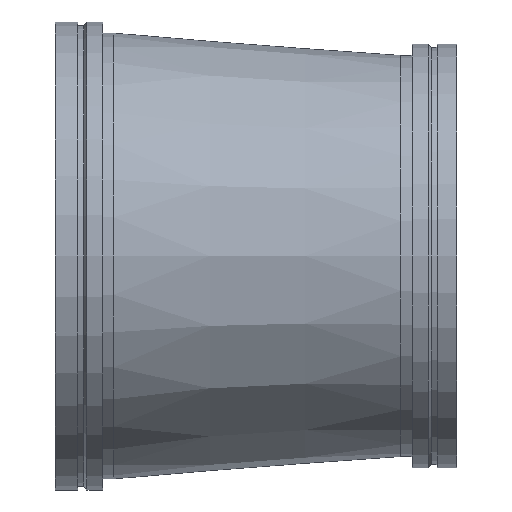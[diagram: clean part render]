
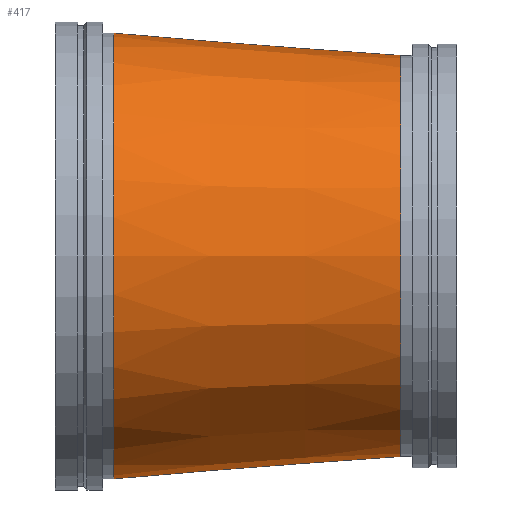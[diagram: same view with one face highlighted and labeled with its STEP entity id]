
A CAD part, front view. The second image highlights one B-rep face of the part: STEP entity #417.
In plain terms, the highlighted conical face has half-angle 4.441 degrees and reference radius 482.6 mm.
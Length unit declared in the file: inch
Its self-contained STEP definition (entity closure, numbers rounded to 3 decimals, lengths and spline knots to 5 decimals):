
#46=CONICAL_SURFACE('',#475,19.,0.078);
#54=LINE('',#739,#68);
#68=VECTOR('',#587,19.);
#101=FACE_OUTER_BOUND('',#124,.T.);
#124=EDGE_LOOP('',(#315,#316,#317,#318,#319,#320));
#155=CIRCLE('',#473,20.);
#156=CIRCLE('',#474,20.);
#157=CIRCLE('',#476,18.);
#158=CIRCLE('',#477,18.);
#195=VERTEX_POINT('',#729);
#196=VERTEX_POINT('',#730);
#197=VERTEX_POINT('',#735);
#198=VERTEX_POINT('',#736);
#239=EDGE_CURVE('',#195,#196,#155,.T.);
#240=EDGE_CURVE('',#196,#195,#156,.T.);
#242=EDGE_CURVE('',#197,#198,#157,.T.);
#243=EDGE_CURVE('',#198,#197,#158,.T.);
#244=EDGE_CURVE('',#198,#196,#54,.T.);
#315=ORIENTED_EDGE('',*,*,#242,.F.);
#316=ORIENTED_EDGE('',*,*,#243,.F.);
#317=ORIENTED_EDGE('',*,*,#244,.T.);
#318=ORIENTED_EDGE('',*,*,#240,.T.);
#319=ORIENTED_EDGE('',*,*,#239,.T.);
#320=ORIENTED_EDGE('',*,*,#244,.F.);
#417=ADVANCED_FACE('',(#101),#46,.T.);
#473=AXIS2_PLACEMENT_3D('',#731,#576,#577);
#474=AXIS2_PLACEMENT_3D('',#732,#578,#579);
#475=AXIS2_PLACEMENT_3D('',#734,#581,#582);
#476=AXIS2_PLACEMENT_3D('',#737,#583,#584);
#477=AXIS2_PLACEMENT_3D('',#738,#585,#586);
#576=DIRECTION('center_axis',(1.,0.,0.));
#577=DIRECTION('ref_axis',(0.,0.,-1.));
#578=DIRECTION('center_axis',(1.,0.,0.));
#579=DIRECTION('ref_axis',(0.,0.,-1.));
#581=DIRECTION('center_axis',(-1.,0.,0.));
#582=DIRECTION('ref_axis',(0.,1.,0.));
#583=DIRECTION('center_axis',(1.,0.,0.));
#584=DIRECTION('ref_axis',(0.,0.,-1.));
#585=DIRECTION('center_axis',(1.,0.,0.));
#586=DIRECTION('ref_axis',(0.,0.,-1.));
#587=DIRECTION('',(-0.997,-0.077,0.));
#729=CARTESIAN_POINT('',(5.25,20.,0.));
#730=CARTESIAN_POINT('',(5.25,-20.,0.));
#731=CARTESIAN_POINT('Origin',(5.25,0.,0.));
#732=CARTESIAN_POINT('Origin',(5.25,0.,0.));
#734=CARTESIAN_POINT('Origin',(18.125,0.,0.));
#735=CARTESIAN_POINT('',(31.,18.,0.));
#736=CARTESIAN_POINT('',(31.,-18.,0.));
#737=CARTESIAN_POINT('Origin',(31.,0.,0.));
#738=CARTESIAN_POINT('Origin',(31.,0.,0.));
#739=CARTESIAN_POINT('',(18.125,-19.,0.));
